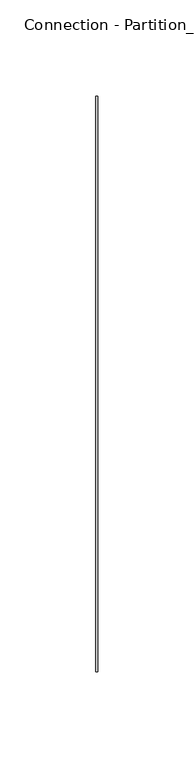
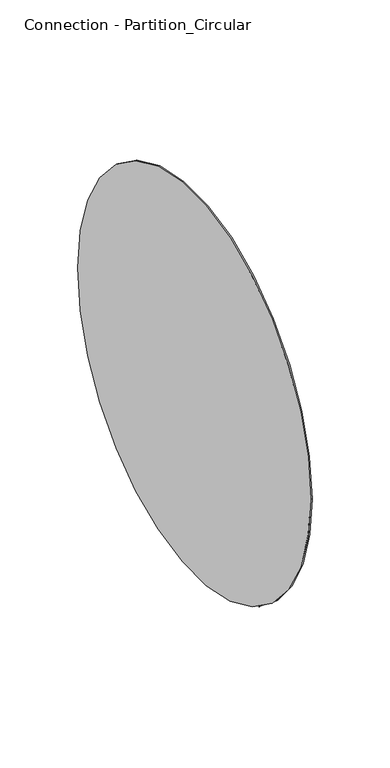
"""IFC4 building model written with IfcOpenShell, lengths in millimetres: duct fitting geometry, Prihoda Circular Duct_Connection - Partition of Loop : Connection - Partition_Circular."""

from ifc_helpers import new_model, si_unit, point, frame, origin, origin_2d, place, context, project, spatial, circle_curve, trimmed, segment, composite_curve, outline, extrude, source, transform, mapped, element, save


def connection_partition_circular_2b3e5c2c(model_context):
    return source(origin(), model_context, "Body", "SweptSolid", [
        extrude(outline(composite_curve([segment(trimmed(circle_curve(origin_2d(), 150.0), [point((-150.0, 0.0))], [point((150.0, 0.0))], False, "CARTESIAN"), True, "CONTINUOUS"), segment(trimmed(circle_curve(origin_2d(), 150.0), [point((150.0, 0.0))], [point((-150.0, 0.0))], False, "CARTESIAN"), True, "CONTINUOUS")], self_intersect=False)), frame((0.0, 0.0, 0.0), z_axis=(1.0, 0.0, 0.0), x_axis=(0.0, 1.0, 0.0)), (0.0, 0.0, 1.0), 1.0),
    ])


if __name__ == "__main__":
    model = new_model("IFC4")
    model_context = context("Model", 3, world=origin())
    ifc_project = project(units=[si_unit("LENGTHUNIT", "METRE", prefix="MILLI")], contexts=[model_context])
    site = spatial("IfcSite", under=ifc_project)
    building = spatial("IfcBuilding", under=site)
    placement = place(None, origin())
    connection_partition_circular_shape = connection_partition_circular_2b3e5c2c(model_context)
    element("IfcDuctFitting", 1, ObjectType="Prihoda Circular Duct_Connection - Partition of Loop : Connection - Partition_Circular", at=placement, inside=building, context=model_context, shape_type="MappedRepresentation", body=[
        mapped(connection_partition_circular_shape, transform((0.0, 0.0, 0.0), x_axis=(1.0, 0.0, 0.0), y_axis=(0.0, 1.0, 0.0), z_axis=(0.0, 0.0, 1.0))),
    ])
    save(model, "model.ifc")
